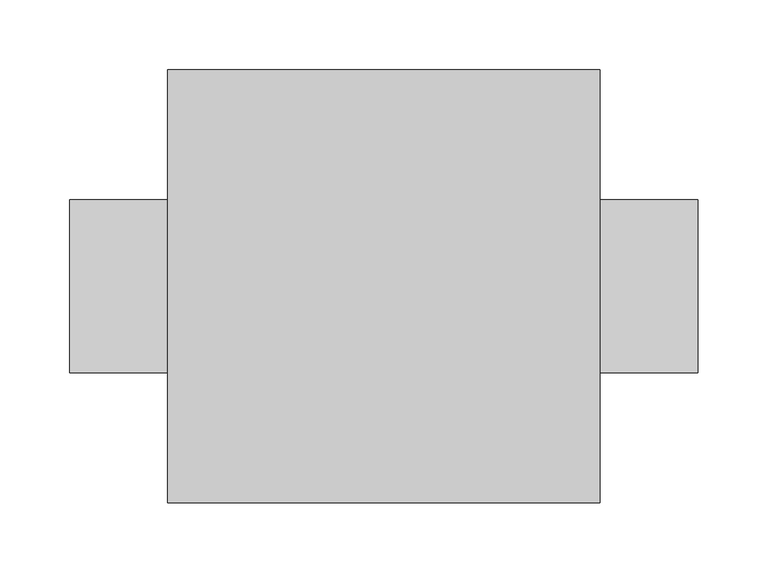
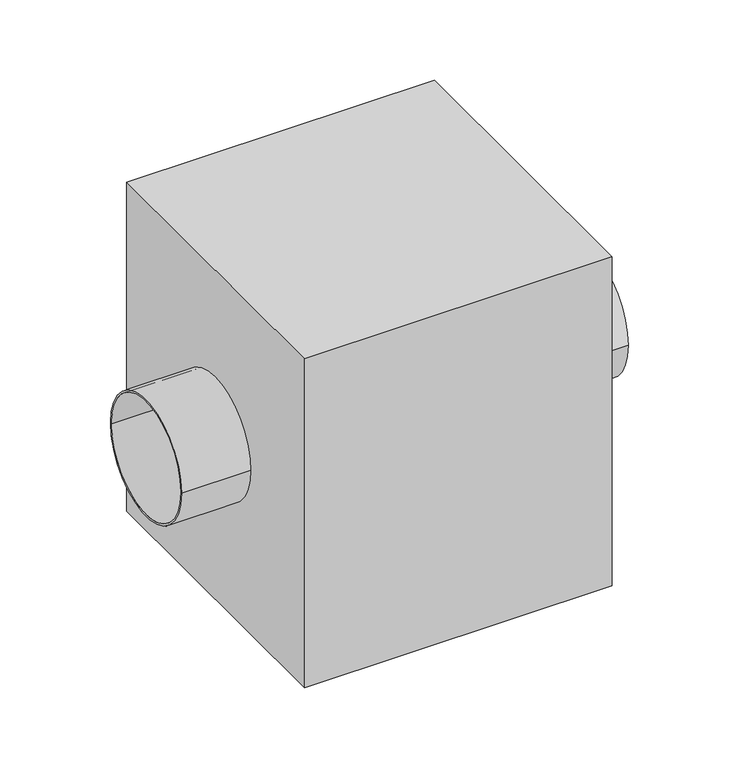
"""IFC4 building model written with IfcOpenShell, lengths in millimetres: proxy geometry, СВ_Вентилятор_КанальныйКруглый_DN100-315_SVK-SVKH : SVKH-125."""

import ifcopenshell
import ifcopenshell.guid

model = None  # the IFC model being written
_history = None  # IfcOwnerHistory: only IFC2X3 demands one
_inside = {}  # id of a spatial element -> (the spatial element, [elements in it])
_under = {}  # id of a project, library or spatial element -> (it, [spatial elements below it])
_declared = {}  # id of a project -> (the project, [libraries it declares])
_typed = {}  # id of a type object -> (the type object, [elements of that type])
_made_of = {}  # id of a material, layer set ... -> (it, [elements and type objects made of it])


def new_model(schema):
    """Start an empty IFC model of exactly this schema.

    Asked for "IFC4X3", IfcOpenShell would pick the latest addendum, in which some entities
    have other attributes; the version numbers below select the first issue.
    IFC2X3 requires an IfcOwnerHistory on every rooted entity: one is made here for all.
    """
    global model, _history
    if schema == "IFC4X3":
        model = ifcopenshell.file(schema_version=(4, 3, 0, 0))
    else:
        model = ifcopenshell.file(schema=schema)
    _inside.clear()
    _under.clear()
    _declared.clear()
    _typed.clear()
    _made_of.clear()
    _history = None
    if model.schema == "IFC2X3":
        org = make("IfcOrganization", Name="unknown")
        user = make(
            "IfcPersonAndOrganization",
            ThePerson=make("IfcPerson", FamilyName="unknown"),
            TheOrganization=org,
        )
        app = make(
            "IfcApplication",
            ApplicationDeveloper=org,
            Version="unknown",
            ApplicationFullName="unknown",
            ApplicationIdentifier="unknown",
        )
        _history = make(
            "IfcOwnerHistory",
            OwningUser=user,
            OwningApplication=app,
            ChangeAction="ADDED",
            CreationDate=0,
        )
    return model


def make(cls, **values):
    """One entity of the class cls with the attributes given. An attribute that is None is left unset."""
    return model.create_entity(
        cls, **{name: value for name, value in values.items() if value is not None}
    )


def rooted(cls, **values):
    """An entity with a GlobalId (a new one), such as an element, a storey or a relation."""
    return make(cls, GlobalId=ifcopenshell.guid.new(), OwnerHistory=_history, **values)


def si_unit(unit_type, name, prefix=None):
    """IfcSIUnit, for example si_unit("LENGTHUNIT", "METRE", prefix="MILLI")."""
    return make("IfcSIUnit", UnitType=unit_type, Prefix=prefix, Name=name)


def assignment(units):
    """IfcUnitAssignment: the units of a project."""
    return None if units is None else make("IfcUnitAssignment", Units=units)


def point(xyz):
    """IfcCartesianPoint."""
    return None if xyz is None else make("IfcCartesianPoint", Coordinates=xyz)


def direction(xyz):
    """IfcDirection."""
    return None if xyz is None else make("IfcDirection", DirectionRatios=xyz)


def frame(location, z_axis=None, x_axis=None):
    """IfcAxis2Placement3D, a coordinate frame: its origin and axes. An axis left out is left unset."""
    return make(
        "IfcAxis2Placement3D",
        Location=point(location),
        Axis=direction(z_axis),
        RefDirection=direction(x_axis),
    )


def frame_2d(location, x_axis=None):
    """IfcAxis2Placement2D, a coordinate frame in the plane: its origin and x axis."""
    return make(
        "IfcAxis2Placement2D", Location=point(location), RefDirection=direction(x_axis)
    )


def origin():
    """The frame at (0, 0, 0) with its axes left unset."""
    return frame((0.0, 0.0, 0.0))


def origin_2d():
    """The frame at (0, 0) in the plane with its x axis left unset."""
    return frame_2d((0.0, 0.0))


def place(relative_to, where):
    """IfcLocalPlacement: puts the frame where relative to a parent placement (None: the world)."""
    return make(
        "IfcLocalPlacement", PlacementRelTo=relative_to, RelativePlacement=where
    )


def context(
    kind, dimensions, precision=None, world=None, true_north=None, identifier=None
):
    """IfcGeometricRepresentationContext, for example the 3D "Model" context."""
    return make(
        "IfcGeometricRepresentationContext",
        ContextIdentifier=identifier,
        ContextType=kind,
        CoordinateSpaceDimension=dimensions,
        Precision=precision,
        WorldCoordinateSystem=world,
        TrueNorth=true_north,
    )


def project(units=None, contexts=None):
    """IfcProject with its units and contexts."""
    return rooted(
        "IfcProject",
        Name="project",
        RepresentationContexts=contexts,
        UnitsInContext=assignment(units),
    )


def spatial(cls, under=None, at=None, **own):
    """A site, building, storey or space (cls), placed at a placement, below another one or the project."""
    s = rooted(cls, ObjectPlacement=at, **own)
    if under is not None:
        _under.setdefault(under.id(), (under, []))[1].append(s)
    return s


def polyline(points):
    """IfcPolyline through the points."""
    return make("IfcPolyline", Points=[point(p) for p in points])


def circle_curve(where, radius):
    """IfcCircle in the frame where."""
    return make("IfcCircle", Position=where, Radius=radius)


def trimmed(basis, trim1, trim2, sense, master):
    """IfcTrimmedCurve: the piece of a basis curve between two trims."""
    return make(
        "IfcTrimmedCurve",
        BasisCurve=basis,
        Trim1=trim1,
        Trim2=trim2,
        SenseAgreement=sense,
        MasterRepresentation=master,
    )


def segment(curve, same_sense, transition):
    """IfcCompositeCurveSegment."""
    return make(
        "IfcCompositeCurveSegment",
        Transition=transition,
        SameSense=same_sense,
        ParentCurve=curve,
    )


def composite_curve(segments, self_intersect=None):
    """IfcCompositeCurve: segments joined end to end."""
    return make("IfcCompositeCurve", Segments=segments, SelfIntersect=self_intersect)


def outline(outer, holes=None, kind="AREA"):
    """IfcArbitraryClosedProfileDef: a profile drawn as a closed curve; with holes, ...WithVoids."""
    if holes is None:
        return make("IfcArbitraryClosedProfileDef", ProfileType=kind, OuterCurve=outer)
    return make(
        "IfcArbitraryProfileDefWithVoids",
        ProfileType=kind,
        OuterCurve=outer,
        InnerCurves=holes,
    )


def extrude(swept, where, along, depth):
    """IfcExtrudedAreaSolid: the profile swept, set in the frame where, extruded along a direction by depth."""
    return make(
        "IfcExtrudedAreaSolid",
        SweptArea=swept,
        Position=where,
        ExtrudedDirection=direction(along),
        Depth=depth,
    )


def shape(context_of_items, identifier, shape_type, items):
    """IfcShapeRepresentation: the items that make up one representation, for example the "Body"."""
    return make(
        "IfcShapeRepresentation",
        ContextOfItems=context_of_items,
        RepresentationIdentifier=identifier,
        RepresentationType=shape_type,
        Items=items,
    )


def source(mapping_origin, context_of_items, identifier, shape_type, items):
    """IfcRepresentationMap: a shape defined once, which mapped items show again and again."""
    return make(
        "IfcRepresentationMap",
        MappingOrigin=mapping_origin,
        MappedRepresentation=shape(context_of_items, identifier, shape_type, items),
    )


def transform(
    local_origin,
    x_axis=None,
    y_axis=None,
    z_axis=None,
    scale=None,
    scale2=None,
    scale3=None,
    uniform=True,
):
    """IfcCartesianTransformationOperator3D, or its non-uniform kind. x_axis, y_axis, z_axis: its Axis1, 2, 3."""
    if uniform:
        return make(
            "IfcCartesianTransformationOperator3D",
            Axis1=direction(x_axis),
            Axis2=direction(y_axis),
            LocalOrigin=point(local_origin),
            Scale=scale,
            Axis3=direction(z_axis),
        )
    return make(
        "IfcCartesianTransformationOperator3DnonUniform",
        Axis1=direction(x_axis),
        Axis2=direction(y_axis),
        LocalOrigin=point(local_origin),
        Scale=scale,
        Axis3=direction(z_axis),
        Scale2=scale2,
        Scale3=scale3,
    )


def mapped(mapping_source, mapping_target):
    """IfcMappedItem: shows the shape of a source again, moved by a transform."""
    return make(
        "IfcMappedItem", MappingSource=mapping_source, MappingTarget=mapping_target
    )


def made_of(thing, what):
    """Note that an element or type object is made of a material, layer set ...; save() writes the relation."""
    if what is not None:
        _made_of.setdefault(what.id(), (what, []))[1].append(thing)
    return thing


def element(
    cls,
    number,
    at=None,
    inside=None,
    cuts=None,
    type_object=None,
    material=None,
    context=None,
    identifier="Body",
    shape_type=None,
    held_by="IfcProductDefinitionShape",
    body=None,
    shapes=None,
    **own,
):
    """One element of the class cls, such as IfcWall. Its Tag is "e" and its number.

    at: its placement. inside: the storey or other place that contains it. cuts: it is an
    opening in that element (IfcRelVoidsElement). A single representation is given by context,
    identifier, shape_type and body (its items); several are given by shapes. held_by: the class
    of the entity that holds the representations. save() writes the other relations.
    """
    e = rooted(cls, Tag="e%d" % number, ObjectPlacement=at, **own)
    if body is not None:
        shapes = [shape(context, identifier, shape_type, body)]
    if shapes is not None:
        e.Representation = make(held_by, Representations=shapes)
    if inside is not None:
        _inside.setdefault(inside.id(), (inside, []))[1].append(e)
    if cuts is not None:
        rooted(
            "IfcRelVoidsElement", RelatingBuildingElement=cuts, RelatedOpeningElement=e
        )
    if type_object is not None:
        _typed.setdefault(type_object.id(), (type_object, []))[1].append(e)
    return made_of(e, material)


def aggregate(whole, parts):
    """IfcRelAggregates: a whole, such as a stair, and the parts it consists of."""
    return rooted("IfcRelAggregates", RelatingObject=whole, RelatedObjects=parts)


def save(model, path):
    """Write the relations noted so far, then the file.

    IfcRelAggregates (storeys below a building ...), IfcRelContainedInSpatialStructure (elements
    in a storey), IfcRelDefinesByType, IfcRelAssociatesMaterial and IfcRelDeclares: one each for
    every whole, place, type object, material and project.
    """
    for whole, parts in _under.values():
        aggregate(whole, parts)
    for where, things in _inside.values():
        rooted(
            "IfcRelContainedInSpatialStructure",
            RelatedElements=things,
            RelatingStructure=where,
        )
    for kind, things in _typed.values():
        rooted("IfcRelDefinesByType", RelatedObjects=things, RelatingType=kind)
    for what, things in _made_of.values():
        rooted("IfcRelAssociatesMaterial", RelatedObjects=things, RelatingMaterial=what)
    for by, libraries in _declared.values():
        rooted("IfcRelDeclares", RelatingContext=by, RelatedDefinitions=libraries)
    model.write(path)


def mechanical_equipment_dcb78026(model_context):
    return source(origin(), model_context, "Body", "SweptSolid", [
        extrude(outline(polyline([(155.0, -155.0), (-155.0, -155.0), (-155.0, 155.0), (155.0, 155.0), (155.0, -155.0)])), frame((0.0, 0.0, -175.0), z_axis=(0.0, 0.0, 1.0), x_axis=(1.0, 0.0, 0.0)), (0.0, 0.0, 1.0), 350.0),
        extrude(outline(composite_curve([segment(trimmed(circle_curve(origin_2d(), 62.0), [point((-62.0, 0.0))], [point((62.0, 0.0))], False, "CARTESIAN"), True, "CONTINUOUS"), segment(trimmed(circle_curve(origin_2d(), 62.0), [point((62.0, 0.0))], [point((-62.0, 0.0))], False, "CARTESIAN"), True, "CONTINUOUS")], self_intersect=False), holes=[composite_curve([segment(trimmed(circle_curve(origin_2d(), 60.0), [point((-60.0, 0.0))], [point((60.0, 0.0))], True, "CARTESIAN"), True, "CONTINUOUS"), segment(trimmed(circle_curve(origin_2d(), 60.0), [point((60.0, 0.0))], [point((-60.0, 0.0))], True, "CARTESIAN"), True, "CONTINUOUS")], self_intersect=False)]), frame((-225.0, 0.0, 0.0), z_axis=(1.0, 0.0, 0.0), x_axis=(0.0, 1.0, 0.0)), (0.0, 0.0, 1.0), 70.0),
        extrude(outline(composite_curve([segment(trimmed(circle_curve(origin_2d(), 62.0), [point((-62.0, 0.0))], [point((62.0, 0.0))], False, "CARTESIAN"), True, "CONTINUOUS"), segment(trimmed(circle_curve(origin_2d(), 62.0), [point((62.0, 0.0))], [point((-62.0, 0.0))], False, "CARTESIAN"), True, "CONTINUOUS")], self_intersect=False), holes=[composite_curve([segment(trimmed(circle_curve(origin_2d(), 60.0), [point((-60.0, 0.0))], [point((60.0, 0.0))], True, "CARTESIAN"), True, "CONTINUOUS"), segment(trimmed(circle_curve(origin_2d(), 60.0), [point((60.0, 0.0))], [point((-60.0, 0.0))], True, "CARTESIAN"), True, "CONTINUOUS")], self_intersect=False)]), frame((155.0, 0.0, 0.0), z_axis=(1.0, 0.0, 0.0), x_axis=(0.0, 1.0, 0.0)), (0.0, 0.0, 1.0), 70.0),
    ])


if __name__ == "__main__":
    model = new_model("IFC4")
    model_context = context("Model", 3, world=origin())
    ifc_project = project(units=[si_unit("LENGTHUNIT", "METRE", prefix="MILLI")], contexts=[model_context])
    site = spatial("IfcSite", under=ifc_project)
    building = spatial("IfcBuilding", under=site)
    placement = place(None, origin())
    mechanical_equipment_shape = mechanical_equipment_dcb78026(model_context)
    element("IfcBuildingElementProxy", 1, Name="СВ_Вентилятор_КанальныйКруглый_DN100-315_SVK-SVKH : SVKH-125", ObjectType="СВ_Вентилятор_КанальныйКруглый_DN100-315_SVK-SVKH : SVKH-125", at=placement, inside=building, context=model_context, shape_type="MappedRepresentation", body=[
        mapped(mechanical_equipment_shape, transform((0.0, 0.0, 0.0), x_axis=(1.0, 0.0, 0.0), y_axis=(0.0, 1.0, 0.0), z_axis=(0.0, 0.0, 1.0))),
    ])
    save(model, "model.ifc")
